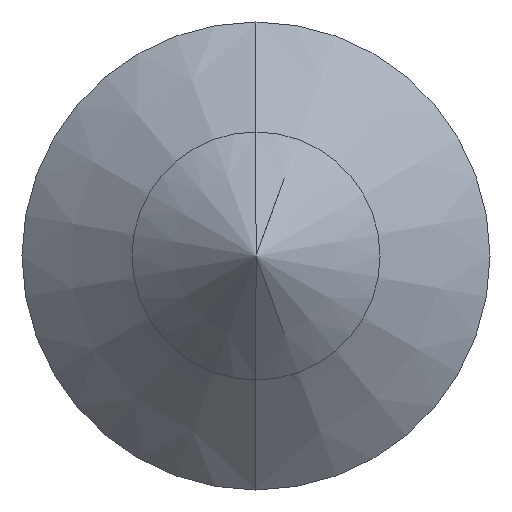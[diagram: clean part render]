
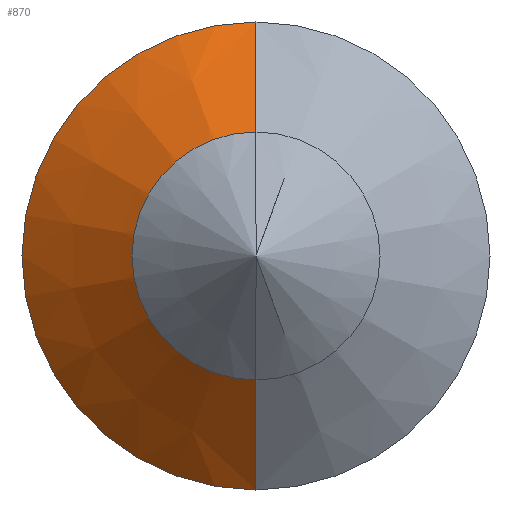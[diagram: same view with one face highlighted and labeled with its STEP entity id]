
A CAD part, left-side view. The second image highlights one B-rep face of the part: STEP entity #870.
In plain terms, the highlighted conical face has half-angle 49.865 degrees and reference radius 2.075 mm.
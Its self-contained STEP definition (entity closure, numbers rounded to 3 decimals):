
#1 = DIRECTION ( 'NONE',  ( 0.645, 0., 0.765 ) ) ;
#37 = DIRECTION ( 'NONE',  ( -1., 0., 0. ) ) ;
#67 = VERTEX_POINT ( 'NONE', #126 ) ;
#76 = VERTEX_POINT ( 'NONE', #1042 ) ;
#116 = CARTESIAN_POINT ( 'NONE',  ( -7.945, 0., 2.075 ) ) ;
#126 = CARTESIAN_POINT ( 'NONE',  ( -9.02, 0., 0.8 ) ) ;
#176 = CARTESIAN_POINT ( 'NONE',  ( -9.02, 0., 0. ) ) ;
#326 = CARTESIAN_POINT ( 'NONE',  ( -7.945, 0., 2.075 ) ) ;
#328 = FACE_OUTER_BOUND ( 'NONE', #638, .T. ) ;
#411 = LINE ( 'NONE', #116, #560 ) ;
#419 = VERTEX_POINT ( 'NONE', #326 ) ;
#481 = LINE ( 'NONE', #681, #1408 ) ;
#493 = EDGE_CURVE ( 'NONE', #67, #76, #1297, .T. ) ;
#500 = DIRECTION ( 'NONE',  ( 0., 0., 1. ) ) ;
#519 = ORIENTED_EDGE ( 'NONE', *, *, #978, .T. ) ;
#538 = VERTEX_POINT ( 'NONE', #1077 ) ;
#539 = AXIS2_PLACEMENT_3D ( 'NONE', #1136, #1368, #686 ) ;
#560 = VECTOR ( 'NONE', #1, 1000. ) ;
#638 = EDGE_LOOP ( 'NONE', ( #1452, #963, #519, #889 ) ) ;
#681 = CARTESIAN_POINT ( 'NONE',  ( -7.945, 0., -2.075 ) ) ;
#686 = DIRECTION ( 'NONE',  ( 0., 0., -1. ) ) ;
#723 = CARTESIAN_POINT ( 'NONE',  ( -7.945, 0., 0. ) ) ;
#770 = CIRCLE ( 'NONE', #1142, 2.075 ) ;
#796 = DIRECTION ( 'NONE',  ( 0.645, 0., -0.765 ) ) ;
#846 = DIRECTION ( 'NONE',  ( 0., 0., 1. ) ) ;
#867 = CONICAL_SURFACE ( 'NONE', #539, 2.075, 0.87 ) ;
#870 = ADVANCED_FACE ( 'NONE', ( #328 ), #867, .T. ) ;
#889 = ORIENTED_EDGE ( 'NONE', *, *, #1225, .F. ) ;
#963 = ORIENTED_EDGE ( 'NONE', *, *, #1000, .T. ) ;
#978 = EDGE_CURVE ( 'NONE', #419, #538, #770, .T. ) ;
#1000 = EDGE_CURVE ( 'NONE', #67, #419, #411, .T. ) ;
#1042 = CARTESIAN_POINT ( 'NONE',  ( -9.02, 0., -0.8 ) ) ;
#1077 = CARTESIAN_POINT ( 'NONE',  ( -7.945, 0., -2.075 ) ) ;
#1136 = CARTESIAN_POINT ( 'NONE',  ( -7.945, 0., 0. ) ) ;
#1139 = AXIS2_PLACEMENT_3D ( 'NONE', #176, #1177, #500 ) ;
#1142 = AXIS2_PLACEMENT_3D ( 'NONE', #723, #37, #846 ) ;
#1177 = DIRECTION ( 'NONE',  ( -1., 0., 0. ) ) ;
#1225 = EDGE_CURVE ( 'NONE', #76, #538, #481, .T. ) ;
#1297 = CIRCLE ( 'NONE', #1139, 0.8 ) ;
#1368 = DIRECTION ( 'NONE',  ( 1., 0., 0. ) ) ;
#1408 = VECTOR ( 'NONE', #796, 1000. ) ;
#1452 = ORIENTED_EDGE ( 'NONE', *, *, #493, .F. ) ;
